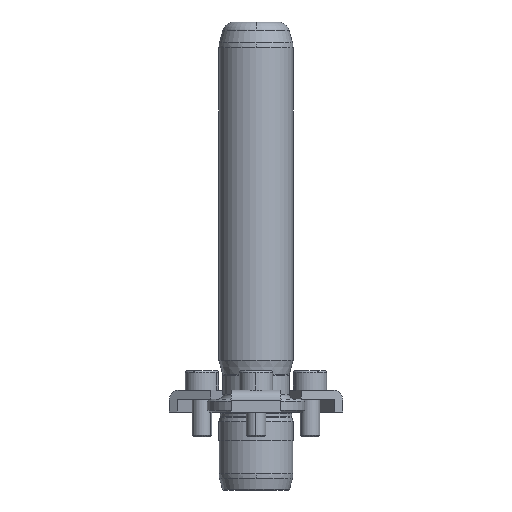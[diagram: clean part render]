
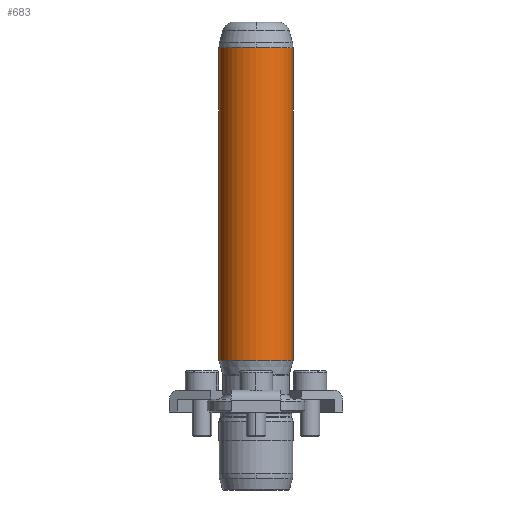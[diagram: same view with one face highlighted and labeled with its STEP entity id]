
A CAD part, front view. The second image highlights one B-rep face of the part: STEP entity #683.
In plain terms, the highlighted cylindrical face has radius 9.5 mm (diameter 19 mm), a partial arc.
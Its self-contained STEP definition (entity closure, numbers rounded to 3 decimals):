
#596=CARTESIAN_POINT('',(0.0,-9.5,93.342));
#597=VERTEX_POINT('',#596);
#624=CARTESIAN_POINT('',(-9.5,0.,93.342));
#625=VERTEX_POINT('',#624);
#633=CARTESIAN_POINT('',(0.0,0.,93.342));
#634=DIRECTION('',(0.0,0.0,1.0));
#635=DIRECTION('',(1.0,0.0,0.0));
#636=AXIS2_PLACEMENT_3D('',#633,#634,#635);
#637=CIRCLE('',#636,9.5);
#638=EDGE_CURVE('',#625,#597,#637,.T.);
#643=CARTESIAN_POINT('',(0.0,0.,53.321));
#644=DIRECTION('',(0.0,0.,1.0));
#645=DIRECTION('',(1.0,0.0,0.0));
#646=AXIS2_PLACEMENT_3D('',#643,#644,#645);
#647=CYLINDRICAL_SURFACE('',#646,9.5);
#648=CARTESIAN_POINT('',(9.5,0.,93.342));
#649=VERTEX_POINT('',#648);
#650=CARTESIAN_POINT('',(9.5,0.,13.3));
#651=VERTEX_POINT('',#650);
#652=CARTESIAN_POINT('',(9.5,0.,93.342));
#653=DIRECTION('',(0.0,0.0,-1.0));
#654=VECTOR('',#653,80.042);
#655=LINE('',#652,#654);
#656=EDGE_CURVE('',#649,#651,#655,.T.);
#657=ORIENTED_EDGE('',*,*,#656,.F.);
#658=CARTESIAN_POINT('',(0.0,0.,93.342));
#659=DIRECTION('',(0.0,0.0,1.0));
#660=DIRECTION('',(1.0,0.0,0.0));
#661=AXIS2_PLACEMENT_3D('',#658,#659,#660);
#662=CIRCLE('',#661,9.5);
#663=EDGE_CURVE('',#597,#649,#662,.T.);
#664=ORIENTED_EDGE('',*,*,#663,.F.);
#665=ORIENTED_EDGE('',*,*,#638,.F.);
#666=CARTESIAN_POINT('',(-9.5,0.,13.3));
#667=VERTEX_POINT('',#666);
#668=CARTESIAN_POINT('',(-9.5,0.,93.342));
#669=DIRECTION('',(0.0,0.0,-1.0));
#670=VECTOR('',#669,80.042);
#671=LINE('',#668,#670);
#672=EDGE_CURVE('',#625,#667,#671,.T.);
#673=ORIENTED_EDGE('',*,*,#672,.T.);
#674=CARTESIAN_POINT('',(0.0,0.,13.3));
#675=DIRECTION('',(0.0,0.0,1.0));
#676=DIRECTION('',(1.0,0.0,0.0));
#677=AXIS2_PLACEMENT_3D('',#674,#675,#676);
#678=CIRCLE('',#677,9.5);
#679=EDGE_CURVE('',#667,#651,#678,.T.);
#680=ORIENTED_EDGE('',*,*,#679,.T.);
#681=EDGE_LOOP('',(#657,#664,#665,#673,#680));
#682=FACE_OUTER_BOUND('',#681,.T.);
#683=ADVANCED_FACE('',(#682),#647,.T.);
